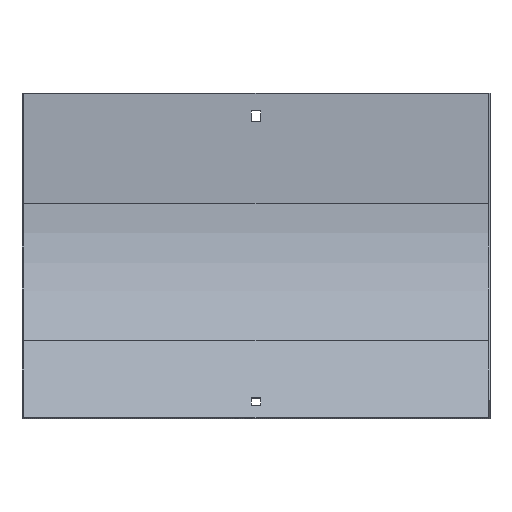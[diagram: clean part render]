
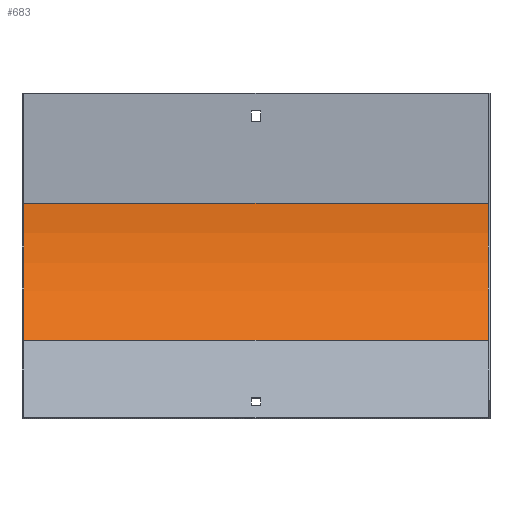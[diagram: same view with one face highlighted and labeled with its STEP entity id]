
A CAD part, front view. The second image highlights one B-rep face of the part: STEP entity #683.
In plain terms, the highlighted cylindrical face has radius 125 mm (diameter 250 mm), a partial arc.
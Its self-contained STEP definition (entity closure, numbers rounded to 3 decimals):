
#8 = ORIENTED_EDGE ( 'NONE', *, *, #485, .T. ) ;
#17 = AXIS2_PLACEMENT_3D ( 'NONE', #817, #222, #681 ) ;
#30 = CIRCLE ( 'NONE', #547, 125. ) ;
#85 = VERTEX_POINT ( 'NONE', #86 ) ;
#86 = CARTESIAN_POINT ( 'NONE',  ( -150., -1., -71. ) ) ;
#87 = FACE_OUTER_BOUND ( 'NONE', #200, .T. ) ;
#169 = DIRECTION ( 'NONE',  ( -1., 0., 0. ) ) ;
#193 = ORIENTED_EDGE ( 'NONE', *, *, #767, .F. ) ;
#200 = EDGE_LOOP ( 'NONE', ( #193, #316, #437, #8 ) ) ;
#222 = DIRECTION ( 'NONE',  ( 1., 0., 0. ) ) ;
#277 = CIRCLE ( 'NONE', #17, 125. ) ;
#305 = VECTOR ( 'NONE', #169, 1000. ) ;
#310 = DIRECTION ( 'NONE',  ( 1., 0., 0. ) ) ;
#315 = CARTESIAN_POINT ( 'NONE',  ( 150., -126., -71. ) ) ;
#316 = ORIENTED_EDGE ( 'NONE', *, *, #518, .F. ) ;
#321 = VERTEX_POINT ( 'NONE', #465 ) ;
#384 = DIRECTION ( 'NONE',  ( -1., 0., 0. ) ) ;
#437 = ORIENTED_EDGE ( 'NONE', *, *, #640, .T. ) ;
#465 = CARTESIAN_POINT ( 'NONE',  ( 150., -37.612, -159.388 ) ) ;
#479 = CARTESIAN_POINT ( 'NONE',  ( -150., -37.612, -159.388 ) ) ;
#482 = DIRECTION ( 'NONE',  ( -1., 0., 0. ) ) ;
#485 = EDGE_CURVE ( 'NONE', #636, #85, #501, .T. ) ;
#501 = LINE ( 'NONE', #816, #305 ) ;
#518 = EDGE_CURVE ( 'NONE', #321, #763, #824, .T. ) ;
#547 = AXIS2_PLACEMENT_3D ( 'NONE', #315, #310, #847 ) ;
#554 = DIRECTION ( 'NONE',  ( 0., 0., 1. ) ) ;
#559 = CARTESIAN_POINT ( 'NONE',  ( 151., -37.612, -159.388 ) ) ;
#591 = VECTOR ( 'NONE', #384, 1000. ) ;
#602 = CARTESIAN_POINT ( 'NONE',  ( 150., -1., -71. ) ) ;
#636 = VERTEX_POINT ( 'NONE', #602 ) ;
#640 = EDGE_CURVE ( 'NONE', #321, #636, #30, .T. ) ;
#644 = AXIS2_PLACEMENT_3D ( 'NONE', #757, #482, #554 ) ;
#681 = DIRECTION ( 'NONE',  ( 0., 0., 1. ) ) ;
#683 = ADVANCED_FACE ( 'NONE', ( #87 ), #750, .F. ) ;
#750 = CYLINDRICAL_SURFACE ( 'NONE', #644, 125. ) ;
#757 = CARTESIAN_POINT ( 'NONE',  ( 151., -126., -71. ) ) ;
#763 = VERTEX_POINT ( 'NONE', #479 ) ;
#767 = EDGE_CURVE ( 'NONE', #763, #85, #277, .T. ) ;
#816 = CARTESIAN_POINT ( 'NONE',  ( 151., -1., -71. ) ) ;
#817 = CARTESIAN_POINT ( 'NONE',  ( -150., -126., -71. ) ) ;
#824 = LINE ( 'NONE', #559, #591 ) ;
#847 = DIRECTION ( 'NONE',  ( 0., 0., 1. ) ) ;
